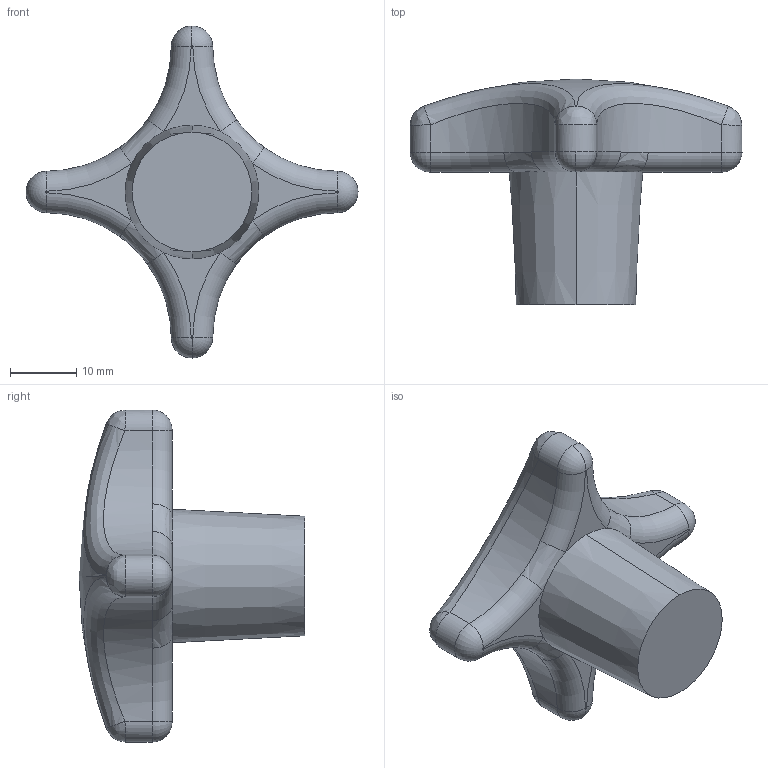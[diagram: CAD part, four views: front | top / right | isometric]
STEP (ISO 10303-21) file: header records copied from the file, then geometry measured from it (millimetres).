
FILE_DESCRIPTION (( 'STEP AP203' ), '1' );
FILE_NAME ('7000.W050.step', '2010-01-29T17:34:12', ( 'Wixroyd' ), ( 'Wixroyd' ), 'SwSTEP 2.0', 'SolidWorks 2009', '' );
FILE_SCHEMA (( 'CONFIG_CONTROL_DESIGN' ));
Length unit declared in the file: millimetre
Products named in the file (1): 7000.W050
Bounding box: 50 x 34 x 50 mm (x, y, z)
Volume: 16138.9 mm3; surface area: 4323.6 mm2
Topology: 1 solids, 1 shells, 44 faces, 102 edges, 60 vertices
Faces by surface type: torus 14, bspline 12, cylinder 9, plane 5, cone 2, sphere 2
Entity records: 7400 total; most frequent: CARTESIAN_POINT 6350, DIRECTION 213, ORIENTED_EDGE 204, EDGE_CURVE 102, AXIS2_PLACEMENT_3D 101, CIRCLE 68, VERTEX_POINT 60, FACE_OUTER_BOUND 44
